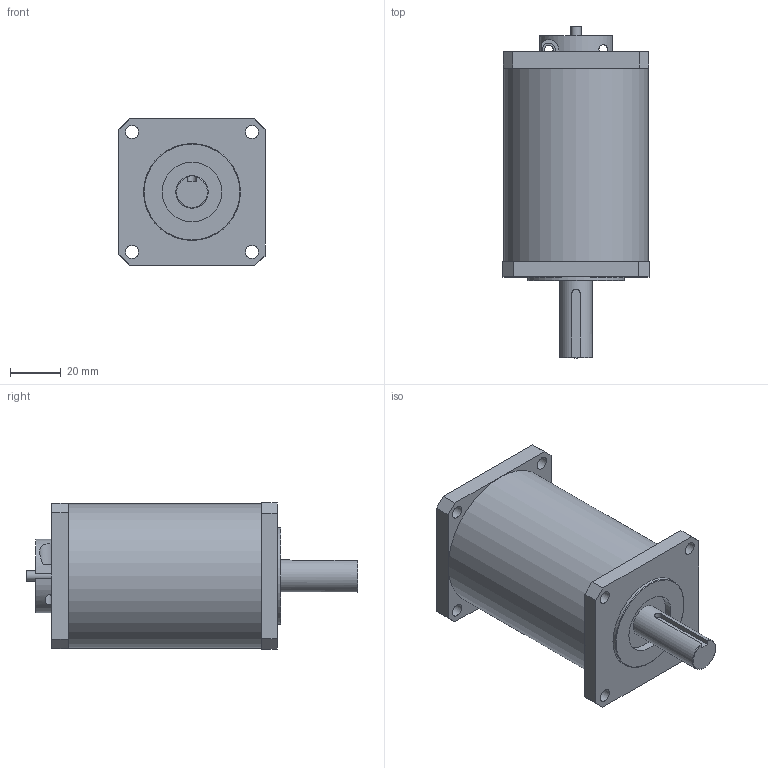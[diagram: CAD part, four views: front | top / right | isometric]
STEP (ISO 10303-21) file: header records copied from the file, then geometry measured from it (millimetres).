
FILE_DESCRIPTION( ( 'Unknown' ), '1' );
FILE_NAME( 'K:/Tegninger - Vare/Gear/HMGH/LT0132.stp', 'Unknown', ( 'Unknown' ), ( 'Unknown' ), 'PSStep 10.1', 'Unknown', ' ' );
FILE_SCHEMA( ( 'AUTOMOTIVE_DESIGN { 1 0 10303 214 1 1 1 1 }' ) );
Length unit declared in the file: millimetre
Products named in the file (6): Assem1; Planetary gear 10 scale 1; Shaft for motor; Bush for shaft; M4x12 hex
Bounding box: 57.4 x 130.5 x 57.4 mm (x, y, z)
Surface area: 71979 mm2
Topology: 11 solids, 11 shells, 201 faces, 476 edges, 325 vertices
Faces by surface type: plane 130, cylinder 64, torus 7
Full cylindrical faces by diameter (mm): 3.4 x4, 4 x3, 5 x4, 5.1 x16, 6.37 x2, 6.9 x3, 12.7 x4, 16 x4, 23.4 x2, 35 x2, 38.1 x2, 38.18 x2, 57 x2
Entity records: 3580 total; most frequent: CARTESIAN_POINT 637, DIRECTION 443, ORIENTED_EDGE 364, EDGE_CURVE 182, AXIS2_PLACEMENT_3D 167, EDGE_LOOP 157, VERTEX_POINT 137, FACE_OUTER_BOUND 120
